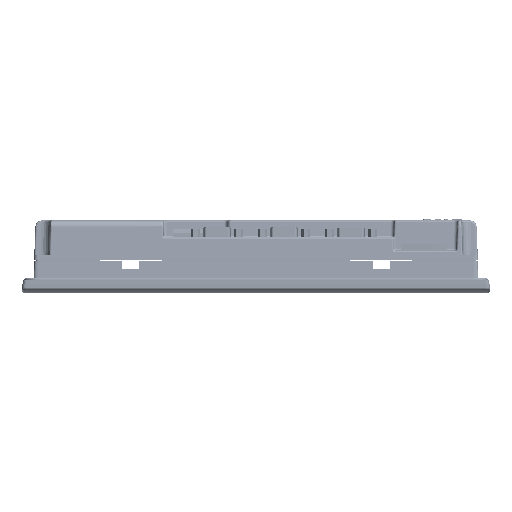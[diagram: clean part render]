
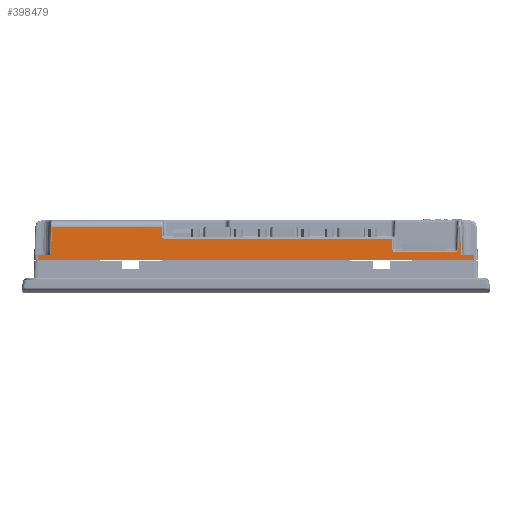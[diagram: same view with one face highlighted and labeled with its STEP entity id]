
A CAD part, front view. The second image highlights one B-rep face of the part: STEP entity #398479.
In plain terms, the highlighted planar face has unit normal (0, -0.999, 0.035).
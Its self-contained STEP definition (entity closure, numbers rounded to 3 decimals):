
#36189=CARTESIAN_POINT('',(9.017,7.018,19.));
#36190=VERTEX_POINT('',#36189);
#36191=CARTESIAN_POINT('',(261.984,7.018,19.));
#36192=VERTEX_POINT('',#36191);
#36193=CARTESIAN_POINT('',(9.017,7.018,19.));
#36194=DIRECTION('',(1.0,0.0,0.0));
#36195=VECTOR('',#36194,252.968);
#36196=LINE('',#36193,#36195);
#36197=EDGE_CURVE('',#36190,#36192,#36196,.T.);
#348389=CARTESIAN_POINT('',(9.121,7.123,22.));
#348390=VERTEX_POINT('',#348389);
#348391=CARTESIAN_POINT('',(9.017,7.018,19.));
#348392=DIRECTION('',(0.035,0.035,0.999));
#348393=VECTOR('',#348392,3.004);
#348394=LINE('',#348391,#348393);
#348395=EDGE_CURVE('',#36190,#348390,#348394,.T.);
#397954=CARTESIAN_POINT('',(17.367,7.69,38.24));
#397955=VERTEX_POINT('',#397954);
#397973=CARTESIAN_POINT('',(16.8,7.123,22.));
#397974=VERTEX_POINT('',#397973);
#397982=CARTESIAN_POINT('',(16.8,7.123,22.));
#397983=DIRECTION('',(0.035,0.035,0.999));
#397984=VECTOR('',#397983,16.259);
#397985=LINE('',#397982,#397984);
#397986=EDGE_CURVE('',#397974,#397955,#397985,.T.);
#398346=CARTESIAN_POINT('',(80.794,7.69,38.24));
#398347=VERTEX_POINT('',#398346);
#398348=CARTESIAN_POINT('',(17.367,7.69,38.24));
#398349=DIRECTION('',(1.0,0.0,0.0));
#398350=VECTOR('',#398349,63.427);
#398351=LINE('',#398348,#398350);
#398352=EDGE_CURVE('',#397955,#398347,#398351,.T.);
#398365=CARTESIAN_POINT('',(264.,7.,18.5));
#398366=DIRECTION('',(0.,-0.999,0.035));
#398367=DIRECTION('',(0.,-0.035,-0.999));
#398368=AXIS2_PLACEMENT_3D('',#398365,#398366,#398367);
#398369=PLANE('',#398368);
#398370=ORIENTED_EDGE('',*,*,#36197,.T.);
#398371=CARTESIAN_POINT('',(261.879,7.123,22.));
#398372=VERTEX_POINT('',#398371);
#398373=CARTESIAN_POINT('',(261.879,7.123,22.));
#398374=DIRECTION('',(0.035,-0.035,-0.999));
#398375=VECTOR('',#398374,3.004);
#398376=LINE('',#398373,#398375);
#398377=EDGE_CURVE('',#398372,#36192,#398376,.T.);
#398378=ORIENTED_EDGE('',*,*,#398377,.F.);
#398379=CARTESIAN_POINT('',(254.201,7.123,22.));
#398380=VERTEX_POINT('',#398379);
#398381=CARTESIAN_POINT('',(254.201,7.123,22.));
#398382=DIRECTION('',(1.0,0.0,0.0));
#398383=VECTOR('',#398382,7.678);
#398384=LINE('',#398381,#398383);
#398385=EDGE_CURVE('',#398380,#398372,#398384,.T.);
#398386=ORIENTED_EDGE('',*,*,#398385,.F.);
#398387=CARTESIAN_POINT('',(253.634,7.69,38.24));
#398388=VERTEX_POINT('',#398387);
#398389=CARTESIAN_POINT('',(253.634,7.69,38.24));
#398390=DIRECTION('',(0.035,-0.035,-0.999));
#398391=VECTOR('',#398390,16.259);
#398392=LINE('',#398389,#398391);
#398393=EDGE_CURVE('',#398388,#398380,#398392,.T.);
#398394=ORIENTED_EDGE('',*,*,#398393,.F.);
#398395=CARTESIAN_POINT('',(253.176,7.69,38.24));
#398396=VERTEX_POINT('',#398395);
#398397=CARTESIAN_POINT('',(253.176,7.69,38.24));
#398398=DIRECTION('',(1.0,0.0,0.0));
#398399=VECTOR('',#398398,0.458);
#398400=LINE('',#398397,#398399);
#398401=EDGE_CURVE('',#398396,#398388,#398400,.T.);
#398402=ORIENTED_EDGE('',*,*,#398401,.F.);
#398403=CARTESIAN_POINT('',(252.734,7.247,25.565));
#398404=VERTEX_POINT('',#398403);
#398405=CARTESIAN_POINT('',(252.734,7.247,25.565));
#398406=DIRECTION('',(0.035,0.035,0.999));
#398407=VECTOR('',#398406,12.69);
#398408=LINE('',#398405,#398407);
#398409=EDGE_CURVE('',#398404,#398396,#398408,.T.);
#398410=ORIENTED_EDGE('',*,*,#398409,.F.);
#398411=CARTESIAN_POINT('',(250.735,7.18,23.635));
#398412=VERTEX_POINT('',#398411);
#398413=CARTESIAN_POINT('',(250.735,7.25,25.635));
#398414=DIRECTION('',(0.,-0.999,0.035));
#398415=DIRECTION('',(0.,-0.035,-0.999));
#398416=AXIS2_PLACEMENT_3D('',#398413,#398414,#398415);
#398417=ELLIPSE('',#398416,2.001,2.);
#398418=EDGE_CURVE('',#398412,#398404,#398417,.T.);
#398419=ORIENTED_EDGE('',*,*,#398418,.F.);
#398420=CARTESIAN_POINT('',(216.3,7.18,23.635));
#398421=VERTEX_POINT('',#398420);
#398422=CARTESIAN_POINT('',(216.3,7.18,23.635));
#398423=DIRECTION('',(1.0,0.0,0.0));
#398424=VECTOR('',#398423,34.434);
#398425=LINE('',#398422,#398424);
#398426=EDGE_CURVE('',#398421,#398412,#398425,.T.);
#398427=ORIENTED_EDGE('',*,*,#398426,.F.);
#398428=CARTESIAN_POINT('',(214.3,7.25,25.635));
#398429=VERTEX_POINT('',#398428);
#398430=CARTESIAN_POINT('',(216.3,7.25,25.635));
#398431=DIRECTION('',(0.,-0.999,0.035));
#398432=DIRECTION('',(0.,-0.035,-0.999));
#398433=AXIS2_PLACEMENT_3D('',#398430,#398431,#398432);
#398434=ELLIPSE('',#398433,2.001,2.);
#398435=EDGE_CURVE('',#398429,#398421,#398434,.T.);
#398436=ORIENTED_EDGE('',*,*,#398435,.F.);
#398437=CARTESIAN_POINT('',(214.3,7.449,31.335));
#398438=VERTEX_POINT('',#398437);
#398439=CARTESIAN_POINT('',(214.3,7.449,31.335));
#398440=DIRECTION('',(0.,-0.035,-0.999));
#398441=VECTOR('',#398440,5.703);
#398442=LINE('',#398439,#398441);
#398443=EDGE_CURVE('',#398438,#398429,#398442,.T.);
#398444=ORIENTED_EDGE('',*,*,#398443,.F.);
#398445=CARTESIAN_POINT('',(82.966,7.449,31.335));
#398446=VERTEX_POINT('',#398445);
#398447=CARTESIAN_POINT('',(82.966,7.449,31.335));
#398448=DIRECTION('',(1.0,0.0,0.0));
#398449=VECTOR('',#398448,131.334);
#398450=LINE('',#398447,#398449);
#398451=EDGE_CURVE('',#398446,#398438,#398450,.T.);
#398452=ORIENTED_EDGE('',*,*,#398451,.F.);
#398453=CARTESIAN_POINT('',(80.967,7.516,33.265));
#398454=VERTEX_POINT('',#398453);
#398455=CARTESIAN_POINT('',(82.966,7.519,33.335));
#398456=DIRECTION('',(0.,-0.999,0.035));
#398457=DIRECTION('',(0.,-0.035,-0.999));
#398458=AXIS2_PLACEMENT_3D('',#398455,#398456,#398457);
#398459=ELLIPSE('',#398458,2.001,2.);
#398460=EDGE_CURVE('',#398454,#398446,#398459,.T.);
#398461=ORIENTED_EDGE('',*,*,#398460,.F.);
#398462=CARTESIAN_POINT('',(80.794,7.69,38.24));
#398463=DIRECTION('',(0.035,-0.035,-0.999));
#398464=VECTOR('',#398463,4.981);
#398465=LINE('',#398462,#398464);
#398466=EDGE_CURVE('',#398347,#398454,#398465,.T.);
#398467=ORIENTED_EDGE('',*,*,#398466,.F.);
#398468=ORIENTED_EDGE('',*,*,#398352,.F.);
#398469=ORIENTED_EDGE('',*,*,#397986,.F.);
#398470=CARTESIAN_POINT('',(9.121,7.123,22.));
#398471=DIRECTION('',(1.0,0.0,0.0));
#398472=VECTOR('',#398471,7.678);
#398473=LINE('',#398470,#398472);
#398474=EDGE_CURVE('',#348390,#397974,#398473,.T.);
#398475=ORIENTED_EDGE('',*,*,#398474,.F.);
#398476=ORIENTED_EDGE('',*,*,#348395,.F.);
#398477=EDGE_LOOP('',(#398370,#398378,#398386,#398394,#398402,#398410,#398419,#398427,#398436,#398444,#398452,#398461,#398467,#398468,#398469,#398475,#398476));
#398478=FACE_OUTER_BOUND('',#398477,.T.);
#398479=ADVANCED_FACE('',(#398478),#398369,.T.);
